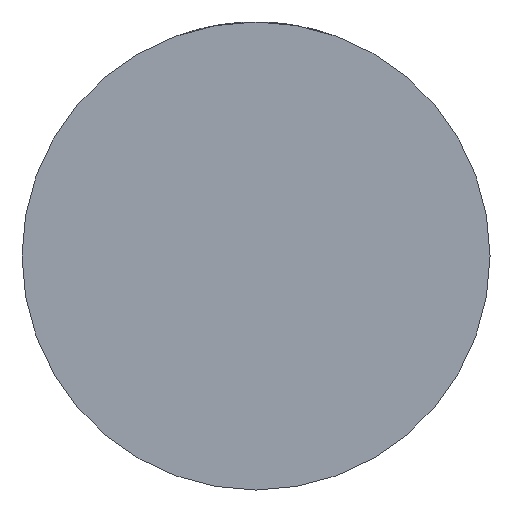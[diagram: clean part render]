
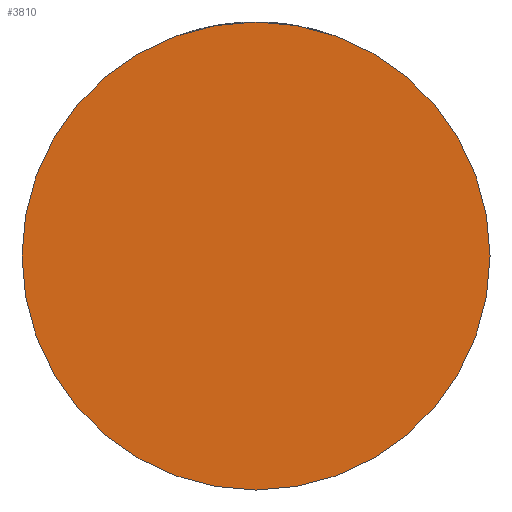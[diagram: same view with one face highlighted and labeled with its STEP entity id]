
A CAD part, front view. The second image highlights one B-rep face of the part: STEP entity #3810.
In plain terms, the highlighted planar face has unit normal (0, -1, 0).
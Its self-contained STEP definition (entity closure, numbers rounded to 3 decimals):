
#66 = CIRCLE ( 'NONE', #3361, 32.5 ) ;
#209 = VERTEX_POINT ( 'NONE', #2543 ) ;
#554 = EDGE_LOOP ( 'NONE', ( #2980, #1944 ) ) ;
#565 = DIRECTION ( 'NONE',  ( 1., 0., 0. ) ) ;
#668 = VERTEX_POINT ( 'NONE', #4311 ) ;
#1009 = DIRECTION ( 'NONE',  ( 1., 0., 0. ) ) ;
#1290 = CIRCLE ( 'NONE', #2069, 32.5 ) ;
#1668 = CARTESIAN_POINT ( 'NONE',  ( 0., -26., 0. ) ) ;
#1944 = ORIENTED_EDGE ( 'NONE', *, *, #3147, .T. ) ;
#2002 = DIRECTION ( 'NONE',  ( 0., -1., 0. ) ) ;
#2069 = AXIS2_PLACEMENT_3D ( 'NONE', #4302, #2299, #565 ) ;
#2267 = FACE_OUTER_BOUND ( 'NONE', #554, .T. ) ;
#2291 = CARTESIAN_POINT ( 'NONE',  ( 0., -26., 0. ) ) ;
#2299 = DIRECTION ( 'NONE',  ( 0., -1., 0. ) ) ;
#2319 = EDGE_CURVE ( 'NONE', #668, #209, #1290, .T. ) ;
#2543 = CARTESIAN_POINT ( 'NONE',  ( 32.5, -26., 0. ) ) ;
#2911 = DIRECTION ( 'NONE',  ( 1., 0., 0. ) ) ;
#2980 = ORIENTED_EDGE ( 'NONE', *, *, #2319, .T. ) ;
#3015 = DIRECTION ( 'NONE',  ( 0., -1., 0. ) ) ;
#3147 = EDGE_CURVE ( 'NONE', #209, #668, #66, .T. ) ;
#3361 = AXIS2_PLACEMENT_3D ( 'NONE', #1668, #3015, #1009 ) ;
#3640 = PLANE ( 'NONE',  #4217 ) ;
#3810 = ADVANCED_FACE ( 'NONE', ( #2267 ), #3640, .T. ) ;
#4217 = AXIS2_PLACEMENT_3D ( 'NONE', #2291, #2002, #2911 ) ;
#4302 = CARTESIAN_POINT ( 'NONE',  ( 0., -26., 0. ) ) ;
#4311 = CARTESIAN_POINT ( 'NONE',  ( -32.5, -26., 0. ) ) ;
